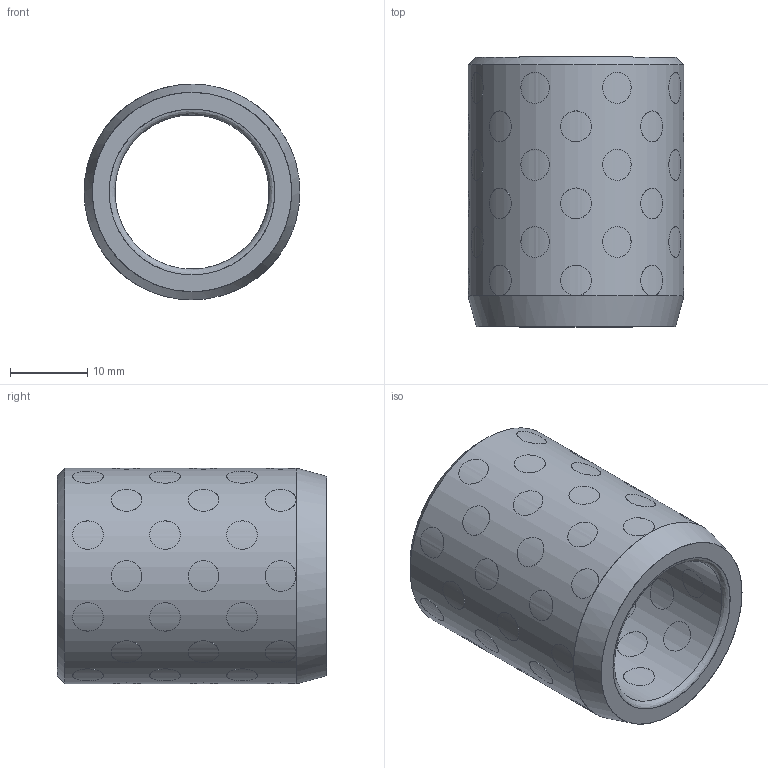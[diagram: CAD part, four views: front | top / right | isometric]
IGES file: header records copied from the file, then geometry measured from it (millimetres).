
Start section: Missler Software BP 521, 31674 Labege Cedex, France Tel   : +33 (0)5 61 00 03 00 Fax   : +33 (0)5 61 00 03 03 Email : sup.topsolid@topsolid.com
Global section: file name: D:\Cuma\18 03 2010\D30.04-2\D30.04_203528.igs; native system: TopSolid v605250 Missler Software; preprocessor: IGES preprocessor v100000; date: 030126.003753; units: millimetre
Bounding box: 28 x 35 x 28 mm (x, y, z)
Surface area: 9959.7 mm2 (no closed solid volume)
Topology: 0 solids, 0 shells, 176 faces, 3845 edges, 3728 vertices
Faces by surface type: bspline 176
